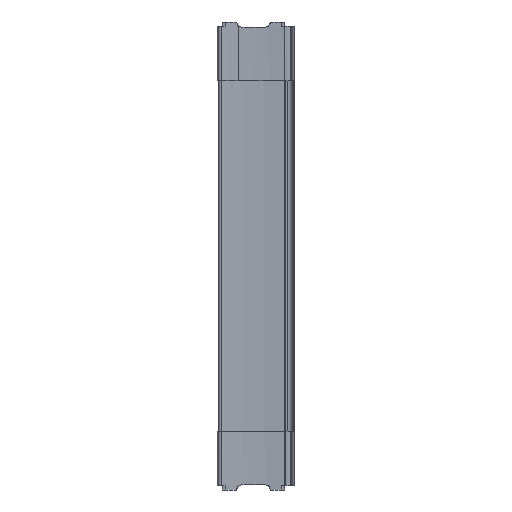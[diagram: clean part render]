
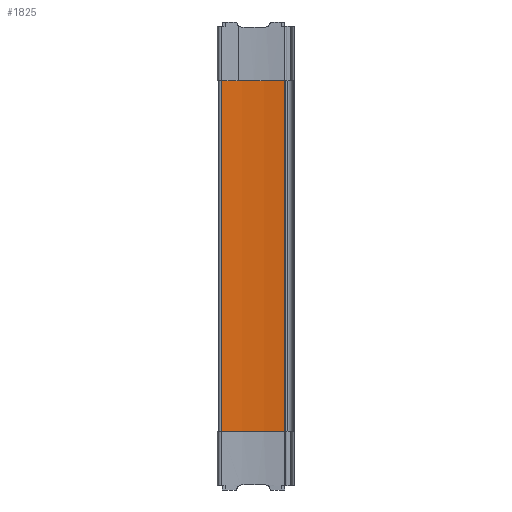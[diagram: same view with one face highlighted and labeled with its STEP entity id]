
A CAD part, left-side view. The second image highlights one B-rep face of the part: STEP entity #1825.
In plain terms, the highlighted cylindrical face has radius 250 mm (diameter 500 mm), a partial arc.
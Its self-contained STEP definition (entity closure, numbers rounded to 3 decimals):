
#111 = EDGE_CURVE ( 'NONE', #1444, #1544, #956, .T. ) ;
#112 = EDGE_CURVE ( 'NONE', #1544, #1521, #971, .T. ) ;
#113 = EDGE_CURVE ( 'NONE', #1521, #1475, #952, .T. ) ;
#351 = ORIENTED_EDGE ( 'NONE', *, *, #2121, .T. ) ;
#352 = ORIENTED_EDGE ( 'NONE', *, *, #111, .F. ) ;
#353 = ORIENTED_EDGE ( 'NONE', *, *, #112, .F. ) ;
#354 = ORIENTED_EDGE ( 'NONE', *, *, #113, .F. ) ;
#728 = CYLINDRICAL_SURFACE ( 'NONE', #2977, 250. ) ;
#731 = FACE_OUTER_BOUND ( 'NONE', #1048, .T. ) ;
#952 = CIRCLE ( 'NONE', #2867, 250. ) ;
#956 = CIRCLE ( 'NONE', #2869, 250. ) ;
#966 = VECTOR ( 'NONE', #1716, 1000. ) ;
#971 = LINE ( 'NONE', #1715, #966 ) ;
#1048 = EDGE_LOOP ( 'NONE', ( #354, #353, #352, #351 ) ) ;
#1444 = VERTEX_POINT ( 'NONE', #1740 ) ;
#1475 = VERTEX_POINT ( 'NONE', #3129 ) ;
#1521 = VERTEX_POINT ( 'NONE', #3160 ) ;
#1544 = VERTEX_POINT ( 'NONE', #3179 ) ;
#1711 = CARTESIAN_POINT ( 'NONE',  ( -255.319, 48.963, 152.5 ) ) ;
#1712 = DIRECTION ( 'NONE',  ( 0., 0., -1. ) ) ;
#1714 = DIRECTION ( 'NONE',  ( 1., 0., 0. ) ) ;
#1715 = CARTESIAN_POINT ( 'NONE',  ( -8.643, 8.331, 158.5 ) ) ;
#1716 = DIRECTION ( 'NONE',  ( 0., 0., -1. ) ) ;
#1718 = DIRECTION ( 'NONE',  ( 0., 0., 1. ) ) ;
#1720 = CARTESIAN_POINT ( 'NONE',  ( -255.319, 48.963, -152.5 ) ) ;
#1721 = DIRECTION ( 'NONE',  ( -1., 0., 0. ) ) ;
#1740 = CARTESIAN_POINT ( 'NONE',  ( -5.747, 63.571, 152.5 ) ) ;
#1825 = ADVANCED_FACE ( 'NONE', ( #731 ), #728, .F. ) ;
#2121 = EDGE_CURVE ( 'NONE', #1444, #1475, #2227, .T. ) ;
#2227 = LINE ( 'NONE', #4254, #2229 ) ;
#2229 = VECTOR ( 'NONE', #4255, 1000. ) ;
#2867 = AXIS2_PLACEMENT_3D ( 'NONE', #1720, #1718, #1721 ) ;
#2869 = AXIS2_PLACEMENT_3D ( 'NONE', #1711, #1712, #1714 ) ;
#2977 = AXIS2_PLACEMENT_3D ( 'NONE', #3423, #3422, #3421 ) ;
#3129 = CARTESIAN_POINT ( 'NONE',  ( -5.747, 63.571, -152.5 ) ) ;
#3160 = CARTESIAN_POINT ( 'NONE',  ( -8.643, 8.331, -152.5 ) ) ;
#3179 = CARTESIAN_POINT ( 'NONE',  ( -8.643, 8.331, 152.5 ) ) ;
#3421 = DIRECTION ( 'NONE',  ( -1., 0., 0. ) ) ;
#3422 = DIRECTION ( 'NONE',  ( 0., 0., -1. ) ) ;
#3423 = CARTESIAN_POINT ( 'NONE',  ( -255.319, 48.963, 158.5 ) ) ;
#4254 = CARTESIAN_POINT ( 'NONE',  ( -5.747, 63.571, 158.5 ) ) ;
#4255 = DIRECTION ( 'NONE',  ( 0., 0., -1. ) ) ;
